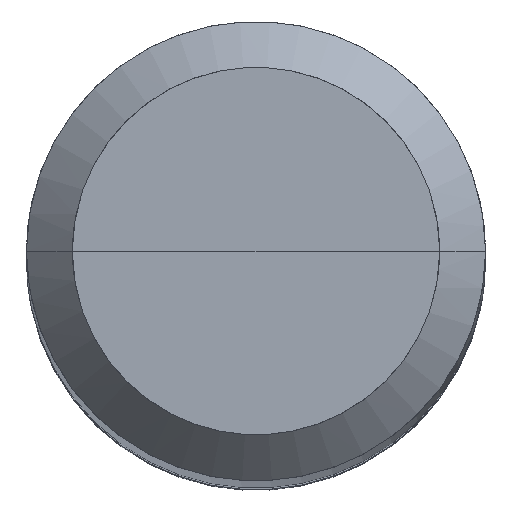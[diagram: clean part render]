
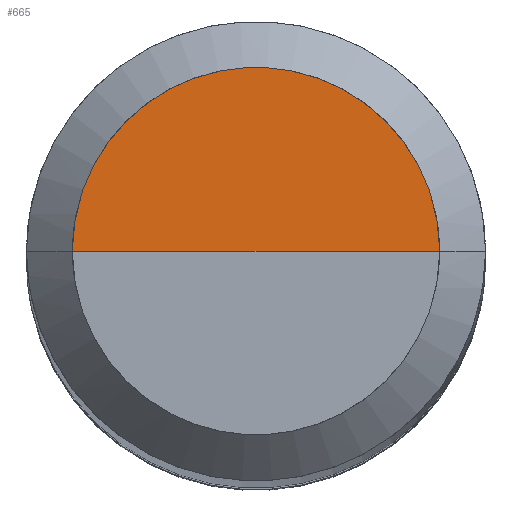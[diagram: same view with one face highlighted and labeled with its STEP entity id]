
A CAD part, top view. The second image highlights one B-rep face of the part: STEP entity #665.
In plain terms, the highlighted free-form (B-spline) face has degree [1, 2] with [2, 5] control points.
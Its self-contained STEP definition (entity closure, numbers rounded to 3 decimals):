
#380=CARTESIAN_POINT('',(3.2,0.0,71.202));
#381=CARTESIAN_POINT('',(3.2,3.2,71.202));
#382=CARTESIAN_POINT('',(0.0,3.2,71.202));
#383=CARTESIAN_POINT('',(-3.2,3.2,71.202));
#384=CARTESIAN_POINT('',(-3.2,0.0,71.202));
#385=CARTESIAN_POINT('',(0.0,0.0,71.202));
#650=(
BOUNDED_SURFACE()
B_SPLINE_SURFACE(1,2,(
(#380,#381,#382,#383,#384),
(#385,#385,#385,#385,#385)
), .UNSPECIFIED.,.F.,.F.,.F.)
B_SPLINE_SURFACE_WITH_KNOTS((2,2),(3,2,3),(
0.0,1.0),(
0.0,0.5,1.0), .UNSPECIFIED.)
GEOMETRIC_REPRESENTATION_ITEM()
RATIONAL_B_SPLINE_SURFACE(((1.0,0.707,1.0,0.707,1.0),
(1.0,0.707,1.0,0.707,1.0)
))
REPRESENTATION_ITEM('')
SURFACE()
);
#651=(
BOUNDED_CURVE()
B_SPLINE_CURVE(2,(#384,#383,#382,#381,#380),.UNSPECIFIED.,.F.,.F.)
B_SPLINE_CURVE_WITH_KNOTS((3,2,3),
(0.0,0.5,1.0),.UNSPECIFIED.)
CURVE()
GEOMETRIC_REPRESENTATION_ITEM()
RATIONAL_B_SPLINE_CURVE((1.0,0.707,1.0,0.707,1.0))
REPRESENTATION_ITEM('')
);
#652=(
BOUNDED_CURVE()
B_SPLINE_CURVE(1,(#380,#385),.UNSPECIFIED.,.F.,.F.)
B_SPLINE_CURVE_WITH_KNOTS((2,2),
(0.0,1.0),.UNSPECIFIED.)
CURVE()
GEOMETRIC_REPRESENTATION_ITEM()
RATIONAL_B_SPLINE_CURVE((1.0,1.0))
REPRESENTATION_ITEM('')
);
#653=(
BOUNDED_CURVE()
B_SPLINE_CURVE(1,(#385,#384),.UNSPECIFIED.,.F.,.F.)
B_SPLINE_CURVE_WITH_KNOTS((2,2),
(0.0,1.0),.UNSPECIFIED.)
CURVE()
GEOMETRIC_REPRESENTATION_ITEM()
RATIONAL_B_SPLINE_CURVE((1.0,1.0))
REPRESENTATION_ITEM('')
);
#654=VERTEX_POINT('',#380);
#655=VERTEX_POINT('',#384);
#656=VERTEX_POINT('',#385);
#657=EDGE_CURVE('',#655,#654,#651,.T.);
#658=EDGE_CURVE('',#654,#656,#652,.T.);
#659=EDGE_CURVE('',#656,#655,#653,.T.);
#660=ORIENTED_EDGE('',*,*,#657,.T.);
#661=ORIENTED_EDGE('',*,*,#658,.T.);
#662=ORIENTED_EDGE('',*,*,#659,.T.);
#663=EDGE_LOOP('',(#660,#661,#662));
#664=FACE_OUTER_BOUND('',#663,.T.);
#665=ADVANCED_FACE('',(#664),#650,.T.);
